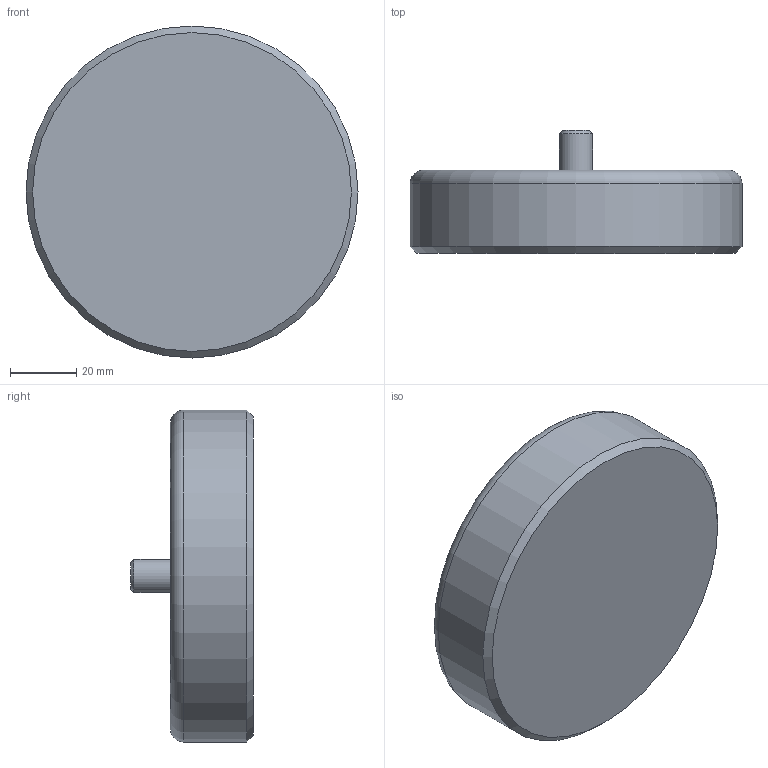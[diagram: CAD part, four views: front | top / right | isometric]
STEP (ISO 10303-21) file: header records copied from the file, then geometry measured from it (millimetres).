
FILE_DESCRIPTION(('FreeCAD Model'),'2;1');
FILE_NAME('Open CASCADE Shape Model','2025-12-23T20:05:32',(''),(''), 'Open CASCADE STEP processor 7.8','FreeCAD','Unknown');
FILE_SCHEMA(('AUTOMOTIVE_DESIGN { 1 0 10303 214 1 1 1 1 }'));
Length unit declared in the file: millimetre
Products named in the file (1): Sockel
Bounding box: 100 x 37 x 100 mm (x, y, z)
Volume: 195598 mm3; surface area: 22999.5 mm2
Topology: 1 solids, 1 shells, 8 faces, 12 edges, 7 vertices
Faces by surface type: plane 3, cylinder 2, cone 2, torus 1
Full cylindrical faces by diameter (mm): 10 x1, 100 x1
Entity records: 204 total; most frequent: DIRECTION 38, CARTESIAN_POINT 28, ORIENTED_EDGE 24, AXIS2_PLACEMENT_3D 17, EDGE_CURVE 12, FACE_BOUND 9, EDGE_LOOP 9, ADVANCED_FACE 8
